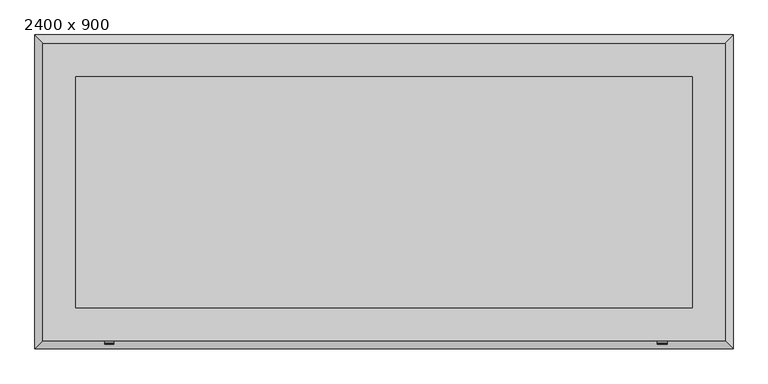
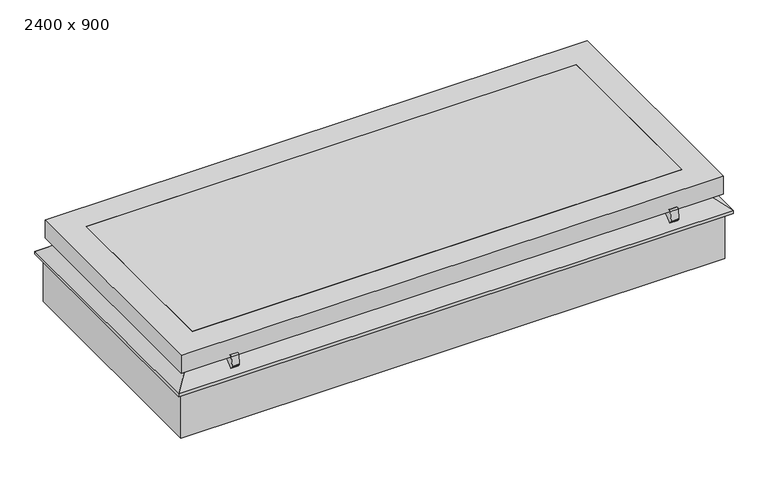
"""IFC4 building model written with IfcOpenShell, lengths in millimetres: proxy geometry, 5_Topaccess_dakluik_2400x900_Staka : 2400 x 900."""

from ifc_helpers import new_model, si_unit, point, frame, frame_2d, origin, place, context, project, spatial, polyline, circle_curve, trimmed, segment, composite_curve, outline, extrude, faceted_brep, source, transform, mapped, element, save


def proxy_2400_x_900_553dbbde(model_context):
    return source(origin(), model_context, "Body", "SolidModel", [
        extrude(outline(composite_curve([segment(polyline([(-351.5444342, 276.0067762), (-361.4812985, 288.4278565)]), True, "CONTINUOUS"), segment(trimmed(circle_curve(frame_2d((-355.3350725, 291.1218996)), 6.7107348), [point((-361.4812985, 288.4278565))], [point((-361.9072794, 292.478387))], False, "CARTESIAN"), True, "CONTINUOUS"), segment(polyline([(-361.9072794, 292.478387), (-354.7140457, 338.0585674)]), True, "CONTINUOUS"), segment(trimmed(circle_curve(frame_2d((-346.9892475, 335.7323444)), 8.0674544), [point((-354.7140457, 338.0585674))], [point((-340.2418528, 331.310073))], False, "CARTESIAN"), True, "CONTINUOUS"), segment(trimmed(circle_curve(frame_2d((-336.7434698, 329.4859796)), 3.9453771), [point((-340.2418528, 331.310073))], [point((-338.5957121, 326.0024185))], True, "CARTESIAN"), True, "CONTINUOUS"), segment(polyline([(-338.5957121, 326.0024185), (-304.6923057, 313.4884791), (-351.5444342, 276.0067762)]), True, "CONTINUOUS")], self_intersect=False)), frame((-2421.3022237, 0.0, 0.0), z_axis=(1.0, 0.0, 0.0), x_axis=(0.0, 1.0, 0.0)), (0.0, 0.0, 1.0), 36.0838433),
        extrude(outline(composite_curve([segment(polyline([(-304.6923057, 313.4884791), (-351.5444342, 276.0067762), (-361.4812985, 288.4278565)]), True, "CONTINUOUS"), segment(trimmed(circle_curve(frame_2d((-355.3350725, 291.1218996)), 6.7107348), [point((-361.4812985, 288.4278565))], [point((-361.9072794, 292.478387))], False, "CARTESIAN"), True, "CONTINUOUS"), segment(polyline([(-361.9072794, 292.478387), (-354.7140457, 338.0585674)]), True, "CONTINUOUS"), segment(trimmed(circle_curve(frame_2d((-346.9892475, 335.7323444)), 8.0674544), [point((-354.7140457, 338.0585674))], [point((-340.2418528, 331.310073))], False, "CARTESIAN"), True, "CONTINUOUS"), segment(trimmed(circle_curve(frame_2d((-336.7434698, 329.4859796)), 3.9453771), [point((-340.2418528, 331.310073))], [point((-338.5957121, 326.0024185))], True, "CARTESIAN"), True, "CONTINUOUS"), segment(polyline([(-338.5957121, 326.0024185), (-304.6923057, 313.4884791)]), True, "CONTINUOUS")], self_intersect=False)), frame((-264.7004682, 0.0, 0.0), z_axis=(1.0, 0.0, 0.0), x_axis=(0.0, 1.0, 0.0)), (0.0, 0.0, 1.0), 38.5717555),
        faceted_brep([(-61.2697623, 753.4470955, 328.0), (30.7302377, 845.4470955, 254.4), (-2693.2697623, 845.4470955, 254.4), (-2601.2697623, 753.4470955, 328.0), (-105.2697623, 709.4470955, 282.0), (-85.7439208, 728.9729371, 328.0), (-2576.7956039, 728.9729371, 328.0), (-2557.2697623, 709.4470955, 282.0), (-131.2697623, 683.4470955, 0.0), (-131.2697623, 683.4470955, 282.0), (-2531.2697623, 683.4470955, 282.0), (-2531.2697623, 683.4470955, 0.0), (4.7302377, 819.4470955, 240.0), (4.7302377, 819.4470955, 0.0), (-2667.2697623, 819.4470955, 0.0), (-2667.2697623, 819.4470955, 240.0), (30.7302377, 845.4470955, 240.0), (-2693.2697623, 845.4470955, 240.0), (-2693.2697623, -378.5529045, 254.4), (-2601.2697623, -286.5529045, 328.0), (-2576.7956039, -262.078746, 328.0), (-2557.2697623, -242.5529045, 282.0), (-2531.2697623, -216.5529045, 282.0), (-2531.2697623, -216.5529045, 0.0), (-2667.2697623, -352.5529045, 0.0), (-2667.2697623, -352.5529045, 240.0), (-2693.2697623, -378.5529045, 240.0), (30.7302377, -378.5529045, 254.4), (-61.2697623, -286.5529045, 328.0), (-85.7439208, -262.078746, 328.0), (-105.2697623, -242.5529045, 282.0), (-131.2697623, -216.5529045, 282.0), (-131.2697623, -216.5529045, 0.0), (4.7302377, -352.5529045, 0.0), (4.7302377, -352.5529045, 240.0), (30.7302377, -378.5529045, 240.0)], [[[0, 1, 2, 3]], [[4, 5, 6, 7]], [[8, 9, 10, 11]], [[12, 13, 14, 15]], [[1, 16, 17, 2]], [[3, 2, 18, 19]], [[7, 6, 20, 21]], [[11, 10, 22, 23]], [[15, 14, 24, 25]], [[2, 17, 26, 18]], [[19, 18, 27, 28]], [[21, 20, 29, 30]], [[23, 22, 31, 32]], [[25, 24, 33, 34]], [[18, 26, 35, 27]], [[28, 27, 1, 0]], [[3, 19, 28, 0], [5, 29, 20, 6]], [[30, 29, 5, 4]], [[7, 21, 30, 4], [9, 31, 22, 10]], [[32, 31, 9, 8]], [[13, 33, 24, 14], [11, 23, 32, 8]], [[34, 33, 13, 12]], [[16, 35, 26, 17], [15, 25, 34, 12]], [[27, 35, 16, 1]]]),
        extrude(outline(polyline([(-2533.9725908, 682.6846734), (-128.2725908, 682.6846734), (-128.2725908, -218.4153266), (-2533.9725908, -218.4153266), (-2533.9725908, 682.6846734)])), frame((0.0, 0.0, 287.0), z_axis=(0.0, 0.0, 1.0), x_axis=(1.0, 0.0, 0.0)), (0.0, 0.0, 1.0), 139.4),
        faceted_brep([(-128.2725908, 682.6846734, 287.0), (-128.2725908, 682.6846734, 426.4), (-2533.9725908, 682.6846734, 426.4), (-2533.9725908, 682.6846734, 287.0), (-85.2725908, 725.6846734, 333.4), (-102.8725908, 708.0846734, 287.0), (-2559.3725908, 708.0846734, 287.0), (-2576.9725908, 725.6846734, 333.4), (0.7274092, 811.6846734, 426.4), (0.7274092, 811.6846734, 333.4), (-2662.9725908, 811.6846734, 333.4), (-2662.9725908, 811.6846734, 426.4), (-2533.9725908, -218.4153266, 426.4), (-2533.9725908, -218.4153266, 287.0), (-2559.3725908, -243.8153266, 287.0), (-2576.9725908, -261.4153266, 333.4), (-2662.9725908, -347.4153266, 333.4), (-2662.9725908, -347.4153266, 426.4), (-128.2725908, -218.4153266, 426.4), (-128.2725908, -218.4153266, 287.0), (-102.8725908, -243.8153266, 287.0), (-85.2725908, -261.4153266, 333.4), (0.7274092, -347.4153266, 333.4), (0.7274092, -347.4153266, 426.4)], [[[0, 1, 2, 3]], [[4, 5, 6, 7]], [[8, 9, 10, 11]], [[3, 2, 12, 13]], [[7, 6, 14, 15]], [[11, 10, 16, 17]], [[13, 12, 18, 19]], [[15, 14, 20, 21]], [[17, 16, 22, 23]], [[19, 18, 1, 0]], [[5, 20, 14, 6], [3, 13, 19, 0]], [[21, 20, 5, 4]], [[9, 22, 16, 10], [7, 15, 21, 4]], [[23, 22, 9, 8]], [[11, 17, 23, 8], [1, 18, 12, 2]]]),
    ])


if __name__ == "__main__":
    model = new_model("IFC4")
    model_context = context("Model", 3, world=origin())
    ifc_project = project(units=[si_unit("LENGTHUNIT", "METRE", prefix="MILLI")], contexts=[model_context])
    site = spatial("IfcSite", under=ifc_project)
    building = spatial("IfcBuilding", under=site)
    placement = place(None, origin())
    proxy_2400_x_900_shape = proxy_2400_x_900_553dbbde(model_context)
    element("IfcBuildingElementProxy", 1, Name="5_Topaccess_dakluik_2400x900_Staka : 2400 x 900", ObjectType="5_Topaccess_dakluik_2400x900_Staka : 2400 x 900", at=placement, inside=building, context=model_context, shape_type="MappedRepresentation", body=[
        mapped(proxy_2400_x_900_shape, transform((0.0, 0.0, 0.0), x_axis=(1.0, 0.0, 0.0), y_axis=(0.0, 1.0, 0.0), z_axis=(0.0, 0.0, 1.0))),
    ])
    save(model, "model.ifc")
